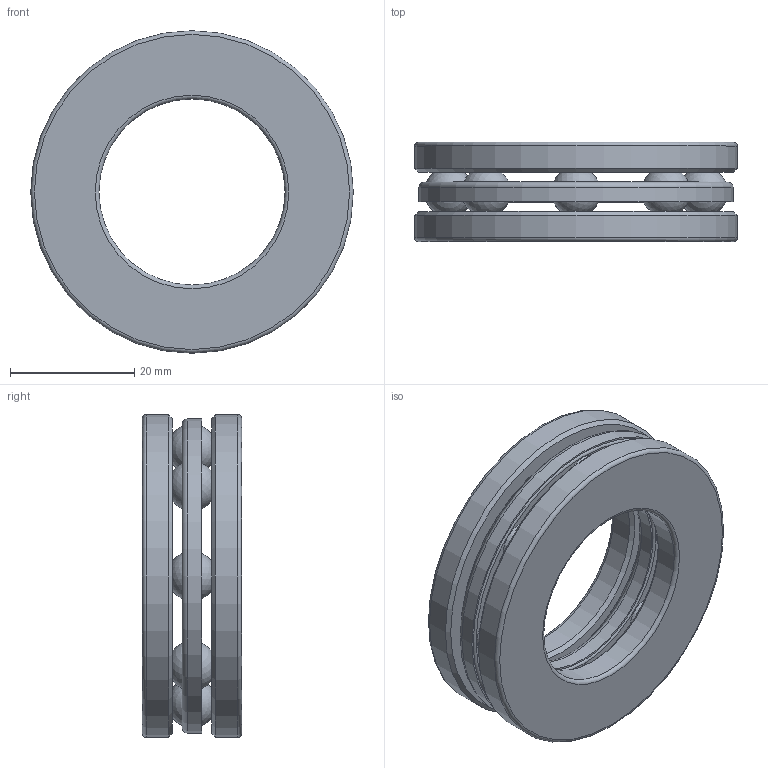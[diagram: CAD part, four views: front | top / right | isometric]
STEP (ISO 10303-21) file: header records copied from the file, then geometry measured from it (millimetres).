
FILE_DESCRIPTION(/* description */ (''),/* implementation_level */ '2;1');
FILE_NAME(/* name */ 'D:\moje\parametrické\512--\512--_\51206.stp',/* time_stamp */ '2016-07-11T14:54:06+02:00',/* author */ ('OUBALASKO'),/* organization */ (''),/* preprocessor_version */ 'ST-DEVELOPER v15.6',/* originating_system */ 'Autodesk Inventor 2015',/* authorisation */ '');
FILE_SCHEMA (('AUTOMOTIVE_DESIGN { 1 0 10303 214 3 1 1 }'));
Length unit declared in the file: millimetre
Products named in the file (7): 51206-HK; 51206-TK; 51206-ball; 51206-cage01; 51206-cage02; 51206-cage; 51206
Assembly tree (13 placements, depth 3):
  51206
    51206-HK
    51206-TK
    51206-ball  x8
    51206-cage
      51206-cage01
      51206-cage02
Bounding box: 52 x 16 x 52 mm (x, y, z)
Volume: 15282.7 mm3; surface area: 15236.4 mm2
Topology: 12 solids, 12 shells, 68 faces, 130 edges, 92 vertices
Faces by surface type: sphere 24, plane 14, torus 14, cylinder 12, cone 4
Full cylindrical faces by diameter (mm): 30 x1, 31.354 x1, 31.909 x1, 32 x1, 32.109 x1, 32.665 x1, 49.335 x1, 49.891 x1, 50.091 x1, 50.646 x1, 52 x2
Entity records: 1672 total; most frequent: DIRECTION 316, CARTESIAN_POINT 236, AXIS2_PLACEMENT_3D 158, ORIENTED_EDGE 154, EDGE_LOOP 153, FACE_BOUND 92, VERTEX_POINT 78, CIRCLE 77
